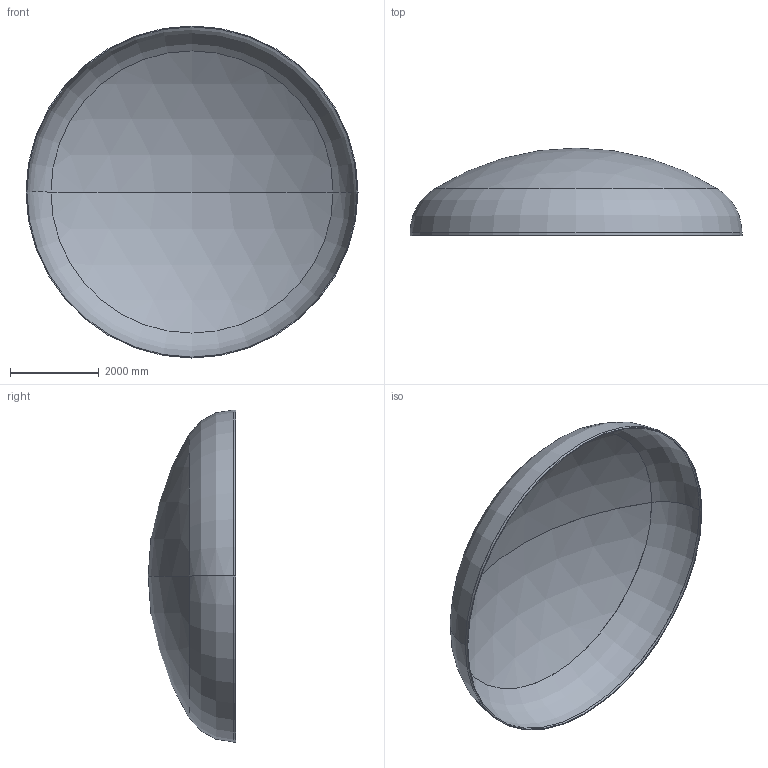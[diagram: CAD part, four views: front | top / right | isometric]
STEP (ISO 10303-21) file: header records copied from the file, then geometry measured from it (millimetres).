
FILE_DESCRIPTION (( 'STEP AP203' ), '1' );
FILE_NAME ('DIN 28013 Korbbogenform_-_Boden DIN 28013 - 7500 x 60 - I - s=20.step', '2016-07-04T10:52:05', ( '' ), ( '' ), 'SwSTEP 2.0', 'SolidWorks 2013', '' );
FILE_SCHEMA (( 'CONFIG_CONTROL_DESIGN' ));
Length unit declared in the file: millimetre
Products named in the file (1): DIN 28013 Korbbogenform_-_Boden DIN 28013 - 7500 x 60 - I - s=20
Bounding box: 7500 x 1975.93 x 7500 mm (x, y, z)
Volume: 1247721821.6 mm3; surface area: 125242951.1 mm2
Topology: 1 solids, 1 shells, 13 faces, 24 edges, 14 vertices
Faces by surface type: torus 4, cylinder 4, sphere 4, plane 1
Entity records: 407 total; most frequent: DIRECTION 72, CARTESIAN_POINT 52, ORIENTED_EDGE 48, AXIS2_PLACEMENT_3D 34, EDGE_CURVE 24, CIRCLE 20, EDGE_LOOP 14, VERTEX_POINT 14
